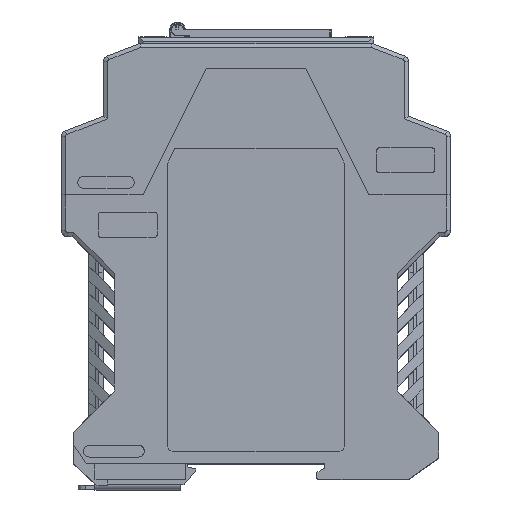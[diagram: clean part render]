
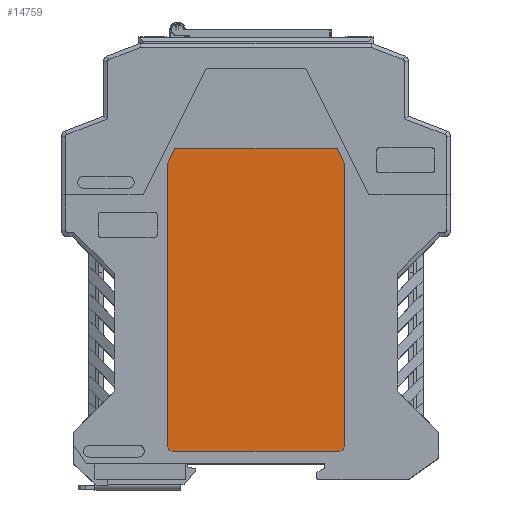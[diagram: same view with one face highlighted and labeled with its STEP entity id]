
A CAD part, top view. The second image highlights one B-rep face of the part: STEP entity #14759.
In plain terms, the highlighted planar face has unit normal (0, 0, 1).
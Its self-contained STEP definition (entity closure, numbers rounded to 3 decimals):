
#11614=CIRCLE('',#116391,2.);
#11616=CIRCLE('',#116395,2.);
#14759=ADVANCED_FACE('',(#24661),#19950,.T.);
#19950=PLANE('',#116396);
#24661=FACE_OUTER_BOUND('',#30386,.T.);
#30386=EDGE_LOOP('',(#44574,#44575,#44576,#44577,#44578,#44579,#44580,#44581));
#44574=ORIENTED_EDGE('',*,*,#79552,.F.);
#44575=ORIENTED_EDGE('',*,*,#79549,.T.);
#44576=ORIENTED_EDGE('',*,*,#79544,.T.);
#44577=ORIENTED_EDGE('',*,*,#79553,.F.);
#44578=ORIENTED_EDGE('',*,*,#79554,.T.);
#44579=ORIENTED_EDGE('',*,*,#79536,.F.);
#44580=ORIENTED_EDGE('',*,*,#79540,.T.);
#44581=ORIENTED_EDGE('',*,*,#79543,.F.);
#67997=VERTEX_POINT('',#162671);
#67998=VERTEX_POINT('',#162673);
#68000=VERTEX_POINT('',#162679);
#68002=VERTEX_POINT('',#162685);
#68003=VERTEX_POINT('',#162689);
#68004=VERTEX_POINT('',#162690);
#68008=VERTEX_POINT('',#162709);
#68009=VERTEX_POINT('',#162716);
#79536=EDGE_CURVE('',#67997,#67998,#93553,.T.);
#79540=EDGE_CURVE('',#67997,#68000,#93557,.T.);
#79543=EDGE_CURVE('',#68002,#68000,#93560,.T.);
#79544=EDGE_CURVE('',#68003,#68004,#11614,.T.);
#79549=EDGE_CURVE('',#68008,#68003,#93564,.T.);
#79552=EDGE_CURVE('',#68008,#68002,#93567,.T.);
#79553=EDGE_CURVE('',#68009,#68004,#93568,.T.);
#79554=EDGE_CURVE('',#68009,#67998,#11616,.T.);
#93553=LINE('',#162672,#105731);
#93557=LINE('',#162680,#105735);
#93560=LINE('',#162686,#105738);
#93564=LINE('',#162708,#105742);
#93567=LINE('',#162713,#105745);
#93568=LINE('',#162715,#105746);
#105731=VECTOR('',#129641,1.);
#105735=VECTOR('',#129647,1.);
#105738=VECTOR('',#129652,1.);
#105742=VECTOR('',#129662,1.);
#105745=VECTOR('',#129667,1.);
#105746=VECTOR('',#129670,1.);
#116391=AXIS2_PLACEMENT_3D('',#162688,#129655,#129656);
#116395=AXIS2_PLACEMENT_3D('',#162717,#129671,#129672);
#116396=AXIS2_PLACEMENT_3D('',#162718,#129673,#129674);
#129641=DIRECTION('',(0.,-1.,0.));
#129647=DIRECTION('',(-0.447,0.894,0.));
#129652=DIRECTION('',(1.,0.,0.));
#129655=DIRECTION('',(0.,0.,1.));
#129656=DIRECTION('',(-1.,0.,0.));
#129662=DIRECTION('',(0.,-1.,0.));
#129667=DIRECTION('',(0.447,0.894,0.));
#129670=DIRECTION('',(-1.,0.,0.));
#129671=DIRECTION('',(0.,0.,1.));
#129672=DIRECTION('',(0.,-1.,0.));
#129673=DIRECTION('',(0.,0.,1.));
#129674=DIRECTION('',(1.,0.,0.));
#162671=CARTESIAN_POINT('',(22.65,76.3,22.4));
#162672=CARTESIAN_POINT('',(22.65,76.3,22.4));
#162673=CARTESIAN_POINT('',(22.65,5.,22.4));
#162679=CARTESIAN_POINT('',(20.65,80.3,22.4));
#162680=CARTESIAN_POINT('',(22.65,76.3,22.4));
#162685=CARTESIAN_POINT('',(-20.65,80.3,22.4));
#162686=CARTESIAN_POINT('',(-20.65,80.3,22.4));
#162688=CARTESIAN_POINT('',(-20.65,5.,22.4));
#162689=CARTESIAN_POINT('',(-22.65,5.,22.4));
#162690=CARTESIAN_POINT('',(-20.65,3.,22.4));
#162708=CARTESIAN_POINT('',(-22.65,76.3,22.4));
#162709=CARTESIAN_POINT('',(-22.65,76.3,22.4));
#162713=CARTESIAN_POINT('',(-22.65,76.3,22.4));
#162715=CARTESIAN_POINT('',(20.65,3.,22.4));
#162716=CARTESIAN_POINT('',(20.65,3.,22.4));
#162717=CARTESIAN_POINT('',(20.65,5.,22.4));
#162718=CARTESIAN_POINT('',(-22.65,3.,22.4));
